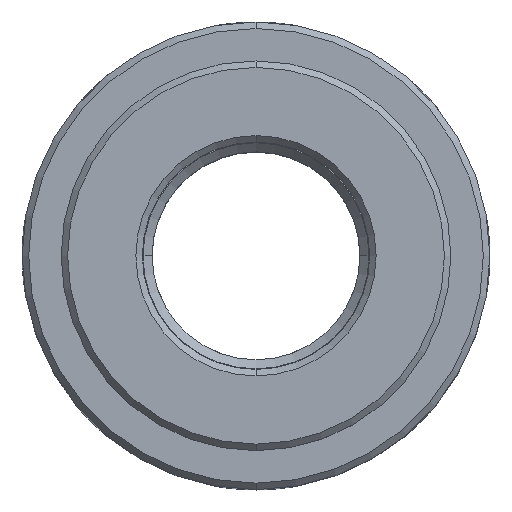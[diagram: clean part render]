
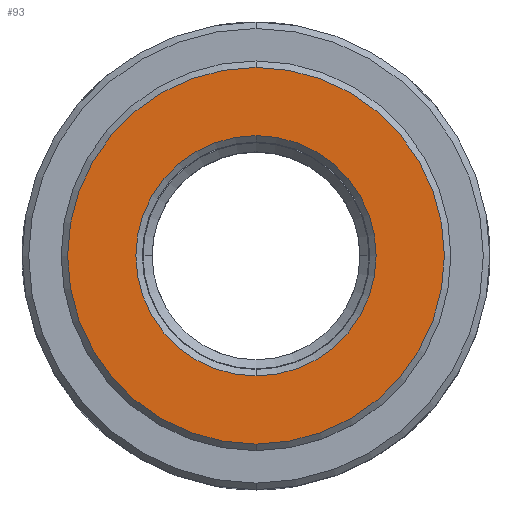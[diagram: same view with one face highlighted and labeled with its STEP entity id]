
A CAD part, top view. The second image highlights one B-rep face of the part: STEP entity #93.
In plain terms, the highlighted planar face has unit normal (0, 0, 1).
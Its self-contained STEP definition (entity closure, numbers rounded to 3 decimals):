
#35 = CIRCLE ( 'NONE', #2390, 14.5 ) ;
#93 = ADVANCED_FACE ( 'NONE', ( #2175, #2174 ), #579, .F. ) ;
#117 = CIRCLE ( 'NONE', #2367, 9.25 ) ;
#122 = CIRCLE ( 'NONE', #2224, 14.5 ) ;
#144 = EDGE_CURVE ( 'NONE', #2077, #2076, #166, .T. ) ;
#145 = EDGE_CURVE ( 'NONE', #2070, #2069, #122, .T. ) ;
#166 = CIRCLE ( 'NONE', #2222, 9.25 ) ;
#358 = ORIENTED_EDGE ( 'NONE', *, *, #2099, .T. ) ;
#359 = ORIENTED_EDGE ( 'NONE', *, *, #144, .T. ) ;
#360 = ORIENTED_EDGE ( 'NONE', *, *, #145, .T. ) ;
#362 = ORIENTED_EDGE ( 'NONE', *, *, #2120, .T. ) ;
#519 = EDGE_LOOP ( 'NONE', ( #358, #359 ) ) ;
#520 = EDGE_LOOP ( 'NONE', ( #360, #362 ) ) ;
#579 = PLANE ( 'NONE',  #2181 ) ;
#580 = CARTESIAN_POINT ( 'NONE',  ( 0., 15., 9. ) ) ;
#581 = DIRECTION ( 'NONE',  ( 0., 0., -1. ) ) ;
#582 = DIRECTION ( 'NONE',  ( 0., 1., 0. ) ) ;
#686 = CARTESIAN_POINT ( 'NONE',  ( 0., 0., 9. ) ) ;
#690 = DIRECTION ( 'NONE',  ( 0., 0., -1. ) ) ;
#691 = DIRECTION ( 'NONE',  ( 0., 1., 0. ) ) ;
#692 = CARTESIAN_POINT ( 'NONE',  ( 0., 0., 9. ) ) ;
#693 = DIRECTION ( 'NONE',  ( 0., 0., 1. ) ) ;
#694 = DIRECTION ( 'NONE',  ( 0., 1., 0. ) ) ;
#1652 = CARTESIAN_POINT ( 'NONE',  ( 0., -14.5, 9. ) ) ;
#1653 = CARTESIAN_POINT ( 'NONE',  ( 0., 14.5, 9. ) ) ;
#1659 = CARTESIAN_POINT ( 'NONE',  ( 0., -9.25, 9. ) ) ;
#1660 = CARTESIAN_POINT ( 'NONE',  ( 0., 9.25, 9. ) ) ;
#1700 = CARTESIAN_POINT ( 'NONE',  ( 0., 0., 9. ) ) ;
#1701 = DIRECTION ( 'NONE',  ( 0., 0., -1. ) ) ;
#1702 = DIRECTION ( 'NONE',  ( 0., 1., 0. ) ) ;
#1809 = CARTESIAN_POINT ( 'NONE',  ( 0., 0., 9. ) ) ;
#1819 = DIRECTION ( 'NONE',  ( 0., 0., 1. ) ) ;
#1820 = DIRECTION ( 'NONE',  ( 0., 1., 0. ) ) ;
#2069 = VERTEX_POINT ( 'NONE', #1652 ) ;
#2070 = VERTEX_POINT ( 'NONE', #1653 ) ;
#2076 = VERTEX_POINT ( 'NONE', #1659 ) ;
#2077 = VERTEX_POINT ( 'NONE', #1660 ) ;
#2099 = EDGE_CURVE ( 'NONE', #2076, #2077, #117, .T. ) ;
#2120 = EDGE_CURVE ( 'NONE', #2069, #2070, #35, .T. ) ;
#2174 = FACE_OUTER_BOUND ( 'NONE', #520, .T. ) ;
#2175 = FACE_BOUND ( 'NONE', #519, .T. ) ;
#2181 = AXIS2_PLACEMENT_3D ( 'NONE', #580, #581, #582 ) ;
#2222 = AXIS2_PLACEMENT_3D ( 'NONE', #686, #690, #691 ) ;
#2224 = AXIS2_PLACEMENT_3D ( 'NONE', #692, #693, #694 ) ;
#2367 = AXIS2_PLACEMENT_3D ( 'NONE', #1700, #1701, #1702 ) ;
#2390 = AXIS2_PLACEMENT_3D ( 'NONE', #1809, #1819, #1820 ) ;
